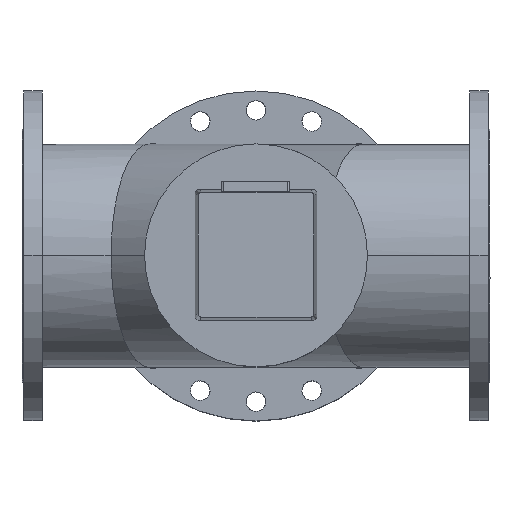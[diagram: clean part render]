
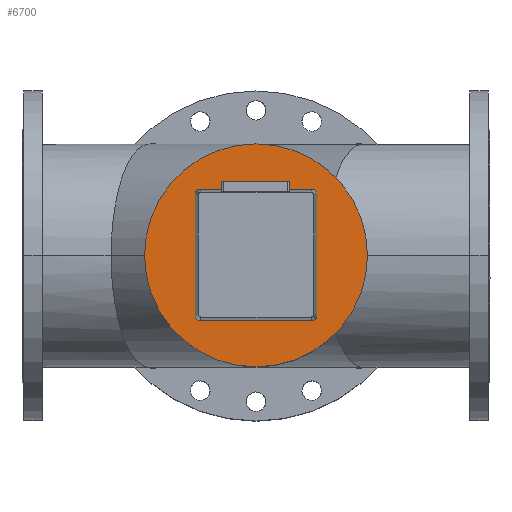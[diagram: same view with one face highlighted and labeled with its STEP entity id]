
A CAD part, top view. The second image highlights one B-rep face of the part: STEP entity #6700.
In plain terms, the highlighted planar face has unit normal (0, 0, 1).
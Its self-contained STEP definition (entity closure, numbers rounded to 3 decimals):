
#1501=FACE_OUTER_BOUND('',#2006,.T.);
#2006=EDGE_LOOP('',(#5233,#5234));
#2555=CIRCLE('',#7424,187.5);
#2556=CIRCLE('',#7425,187.5);
#3097=VERTEX_POINT('',#11108);
#3098=VERTEX_POINT('',#11109);
#3851=EDGE_CURVE('',#3097,#3098,#2555,.T.);
#3852=EDGE_CURVE('',#3098,#3097,#2556,.T.);
#5233=ORIENTED_EDGE('',*,*,#3851,.T.);
#5234=ORIENTED_EDGE('',*,*,#3852,.T.);
#6110=PLANE('',#7423);
#6700=ADVANCED_FACE('',(#1501),#6110,.T.);
#7423=AXIS2_PLACEMENT_3D('',#11107,#9022,#9023);
#7424=AXIS2_PLACEMENT_3D('',#11110,#9024,#9025);
#7425=AXIS2_PLACEMENT_3D('',#11111,#9026,#9027);
#9022=DIRECTION('center_axis',(0.,0.,1.));
#9023=DIRECTION('ref_axis',(0.,-1.,0.));
#9024=DIRECTION('center_axis',(0.,0.,1.));
#9025=DIRECTION('ref_axis',(-1.,0.,0.));
#9026=DIRECTION('center_axis',(0.,0.,1.));
#9027=DIRECTION('ref_axis',(-1.,0.,0.));
#11107=CARTESIAN_POINT('Origin',(-187.5,0.,373.));
#11108=CARTESIAN_POINT('',(187.5,0.,373.));
#11109=CARTESIAN_POINT('',(-187.5,0.,373.));
#11110=CARTESIAN_POINT('Origin',(0.,0.,373.));
#11111=CARTESIAN_POINT('Origin',(0.,0.,373.));
